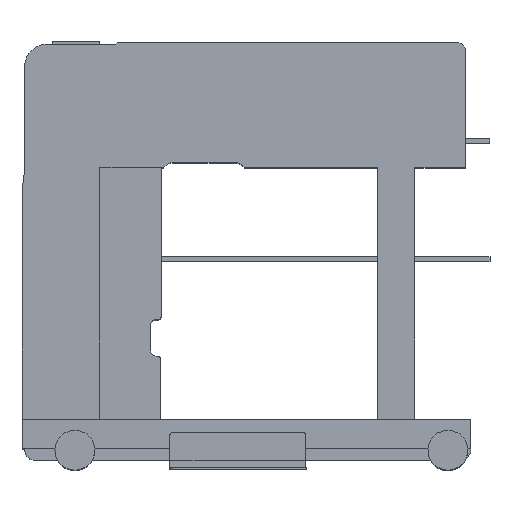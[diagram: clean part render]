
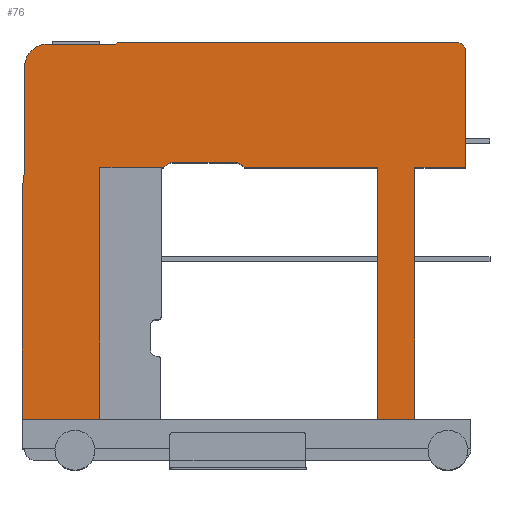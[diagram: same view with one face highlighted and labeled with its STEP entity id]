
A CAD part, top view. The second image highlights one B-rep face of the part: STEP entity #76.
In plain terms, the highlighted planar face has unit normal (0, 0, 1).
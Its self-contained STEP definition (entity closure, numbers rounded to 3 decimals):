
#76=ADVANCED_FACE('',(#2486),#2488,.T.);
#2486=FACE_BOUND('',#2487,.T.);
#2487=EDGE_LOOP('',(#4531,#4532,#4533,#4534,#4535,#4536,#4537,#4538,#4539,#4540,
#4541,#4542,#4543,#4544,#4545,#4546,#4547,#4548,#4549,#4550,#4551));
#2488=PLANE('',#2489);
#2489=AXIS2_PLACEMENT_3D('',#2490,#2491,#2492);
#2490=CARTESIAN_POINT('',(0.,0.,460.));
#2491=DIRECTION('',(0.,0.,1.));
#2492=DIRECTION('',(1.,0.,0.));
#4531=ORIENTED_EDGE('',*,*,#6002,.F.);
#4532=ORIENTED_EDGE('',*,*,#6003,.T.);
#4533=ORIENTED_EDGE('',*,*,#6004,.T.);
#4534=ORIENTED_EDGE('',*,*,#6005,.T.);
#4535=ORIENTED_EDGE('',*,*,#6006,.T.);
#4536=ORIENTED_EDGE('',*,*,#6007,.T.);
#4537=ORIENTED_EDGE('',*,*,#6008,.T.);
#4538=ORIENTED_EDGE('',*,*,#6009,.T.);
#4539=ORIENTED_EDGE('',*,*,#6010,.T.);
#4540=ORIENTED_EDGE('',*,*,#6011,.F.);
#4541=ORIENTED_EDGE('',*,*,#6012,.T.);
#4542=ORIENTED_EDGE('',*,*,#6013,.T.);
#4543=ORIENTED_EDGE('',*,*,#6014,.T.);
#4544=ORIENTED_EDGE('',*,*,#6015,.T.);
#4545=ORIENTED_EDGE('',*,*,#6016,.T.);
#4546=ORIENTED_EDGE('',*,*,#6017,.T.);
#4547=ORIENTED_EDGE('',*,*,#5976,.T.);
#4548=ORIENTED_EDGE('',*,*,#6018,.T.);
#4549=ORIENTED_EDGE('',*,*,#6019,.T.);
#4550=ORIENTED_EDGE('',*,*,#6020,.T.);
#4551=ORIENTED_EDGE('',*,*,#6021,.T.);
#5976=EDGE_CURVE('',#6676,#6674,#6677,.T.);
#6002=EDGE_CURVE('',#6726,#6727,#6728,.T.);
#6003=EDGE_CURVE('',#6726,#6729,#6730,.T.);
#6004=EDGE_CURVE('',#6729,#6731,#6732,.T.);
#6005=EDGE_CURVE('',#6731,#6733,#6734,.T.);
#6006=EDGE_CURVE('',#6733,#6735,#6736,.T.);
#6007=EDGE_CURVE('',#6735,#6737,#6738,.T.);
#6008=EDGE_CURVE('',#6737,#6739,#6740,.T.);
#6009=EDGE_CURVE('',#6739,#6741,#6742,.T.);
#6010=EDGE_CURVE('',#6741,#6743,#6744,.T.);
#6011=EDGE_CURVE('',#6745,#6743,#6746,.T.);
#6012=EDGE_CURVE('',#6745,#6747,#6748,.T.);
#6013=EDGE_CURVE('',#6747,#6749,#6750,.T.);
#6014=EDGE_CURVE('',#6749,#6751,#6752,.T.);
#6015=EDGE_CURVE('',#6751,#6753,#6754,.T.);
#6016=EDGE_CURVE('',#6753,#6755,#6756,.T.);
#6017=EDGE_CURVE('',#6755,#6676,#6757,.T.);
#6018=EDGE_CURVE('',#6674,#6758,#6759,.T.);
#6019=EDGE_CURVE('',#6758,#6760,#6761,.T.);
#6020=EDGE_CURVE('',#6760,#6762,#6763,.T.);
#6021=EDGE_CURVE('',#6762,#6727,#6764,.T.);
#6674=VERTEX_POINT('',#7849);
#6676=VERTEX_POINT('',#7853);
#6677=LINE('',#7854,#7855);
#6726=VERTEX_POINT('',#7959);
#6727=VERTEX_POINT('',#7960);
#6728=LINE('',#7961,#7962);
#6729=VERTEX_POINT('',#7964);
#6730=LINE('',#7965,#7966);
#6731=VERTEX_POINT('',#7968);
#6732=LINE('',#7969,#7970);
#6733=VERTEX_POINT('',#7972);
#6734=LINE('',#7973,#7974);
#6735=VERTEX_POINT('',#7976);
#6736=CIRCLE('',#7977,14.);
#6737=VERTEX_POINT('',#7981);
#6738=LINE('',#7982,#7983);
#6739=VERTEX_POINT('',#7985);
#6740=CIRCLE('',#7986,18.);
#6741=VERTEX_POINT('',#7990);
#6742=LINE('',#7991,#7992);
#6743=VERTEX_POINT('',#7994);
#6744=LINE('',#7995,#7996);
#6745=VERTEX_POINT('',#7998);
#6746=LINE('',#7999,#8000);
#6747=VERTEX_POINT('',#8002);
#6748=LINE('',#8003,#8004);
#6749=VERTEX_POINT('',#8006);
#6750=LINE('',#8007,#8008);
#6751=VERTEX_POINT('',#8010);
#6752=LINE('',#8011,#8012);
#6753=VERTEX_POINT('',#8014);
#6754=CIRCLE('',#8015,12.);
#6755=VERTEX_POINT('',#8019);
#6756=LINE('',#8020,#8021);
#6757=LINE('',#8023,#8024);
#6758=VERTEX_POINT('',#8026);
#6759=CIRCLE('',#8027,31.);
#6760=VERTEX_POINT('',#8031);
#6761=LINE('',#8032,#8033);
#6762=VERTEX_POINT('',#8035);
#6763=LINE('',#8036,#8037);
#6764=LINE('',#8039,#8040);
#7849=CARTESIAN_POINT('',(31.344,508.237,460.));
#7853=CARTESIAN_POINT('',(126.344,508.237,460.));
#7854=CARTESIAN_POINT('',(126.344,508.237,460.));
#7855=VECTOR('',#7856,1.);
#7856=DIRECTION('',(-1.,0.,0.));
#7959=CARTESIAN_POINT('',(105.344,0.,460.));
#7960=CARTESIAN_POINT('',(0.,0.,460.));
#7961=CARTESIAN_POINT('',(105.344,0.,460.));
#7962=VECTOR('',#7963,1.);
#7963=DIRECTION('',(-1.,0.,0.));
#7964=CARTESIAN_POINT('',(105.344,341.18,460.));
#7965=CARTESIAN_POINT('',(105.344,0.,460.));
#7966=VECTOR('',#7967,1.);
#7967=DIRECTION('',(0.,1.,0.));
#7968=CARTESIAN_POINT('',(189.13,340.767,460.));
#7969=CARTESIAN_POINT('',(105.344,341.18,460.));
#7970=VECTOR('',#7971,1.);
#7971=DIRECTION('',(1.,-0.005,0.));
#7972=CARTESIAN_POINT('',(192.13,340.767,460.));
#7973=CARTESIAN_POINT('',(189.13,340.767,460.));
#7974=VECTOR('',#7975,1.);
#7975=DIRECTION('',(1.,0.,0.));
#7976=CARTESIAN_POINT('',(205.612,347.85,460.));
#7977=AXIS2_PLACEMENT_3D('',#7978,#7979,#7980);
#7978=CARTESIAN_POINT('',(204.335,333.908,460.));
#7979=DIRECTION('',(0.,0.,-1.));
#7980=DIRECTION('',(-0.872,0.49,0.));
#7981=CARTESIAN_POINT('',(288.612,347.85,460.));
#7982=CARTESIAN_POINT('',(205.612,347.85,460.));
#7983=VECTOR('',#7984,1.);
#7984=DIRECTION('',(1.,0.,0.));
#7985=CARTESIAN_POINT('',(301.271,341.152,460.));
#7986=AXIS2_PLACEMENT_3D('',#7987,#7988,#7989);
#7987=CARTESIAN_POINT('',(287.218,329.904,460.));
#7988=DIRECTION('',(0.,0.,-1.));
#7989=DIRECTION('',(0.077,0.997,0.));
#7990=CARTESIAN_POINT('',(482.176,341.152,460.));
#7991=CARTESIAN_POINT('',(301.271,341.152,460.));
#7992=VECTOR('',#7993,1.);
#7993=DIRECTION('',(1.,0.,0.));
#7994=CARTESIAN_POINT('',(482.176,0.,460.));
#7995=CARTESIAN_POINT('',(482.176,341.152,460.));
#7996=VECTOR('',#7997,1.);
#7997=DIRECTION('',(0.,-1.,0.));
#7998=CARTESIAN_POINT('',(532.176,0.,460.));
#7999=CARTESIAN_POINT('',(532.176,0.,460.));
#8000=VECTOR('',#8001,1.);
#8001=DIRECTION('',(-1.,0.,0.));
#8002=CARTESIAN_POINT('',(532.176,341.152,460.));
#8003=CARTESIAN_POINT('',(532.176,0.,460.));
#8004=VECTOR('',#8005,1.);
#8005=DIRECTION('',(0.,1.,0.));
#8006=CARTESIAN_POINT('',(600.611,341.152,460.));
#8007=CARTESIAN_POINT('',(532.176,341.152,460.));
#8008=VECTOR('',#8009,1.);
#8009=DIRECTION('',(1.,0.,0.));
#8010=CARTESIAN_POINT('',(600.611,500.152,460.));
#8011=CARTESIAN_POINT('',(600.611,341.152,460.));
#8012=VECTOR('',#8013,1.);
#8013=DIRECTION('',(0.,1.,0.));
#8014=CARTESIAN_POINT('',(591.697,510.076,460.));
#8015=AXIS2_PLACEMENT_3D('',#8016,#8017,#8018);
#8016=CARTESIAN_POINT('',(588.733,498.448,460.));
#8017=DIRECTION('',(0.,-0.,1.));
#8018=DIRECTION('',(0.99,0.142,0.));
#8019=CARTESIAN_POINT('',(128.697,510.076,460.));
#8020=CARTESIAN_POINT('',(591.697,510.076,460.));
#8021=VECTOR('',#8022,1.);
#8022=DIRECTION('',(-1.,0.,0.));
#8023=CARTESIAN_POINT('',(128.697,510.076,460.));
#8024=VECTOR('',#8025,1.);
#8025=DIRECTION('',(-0.788,-0.616,0.));
#8026=CARTESIAN_POINT('',(3.404,476.145,460.));
#8027=AXIS2_PLACEMENT_3D('',#8028,#8029,#8030);
#8028=CARTESIAN_POINT('',(34.38,477.386,460.));
#8029=DIRECTION('',(0.,0.,1.));
#8030=DIRECTION('',(-0.098,0.995,0.));
#8031=CARTESIAN_POINT('',(3.404,335.145,460.));
#8032=CARTESIAN_POINT('',(3.404,476.145,460.));
#8033=VECTOR('',#8034,1.);
#8034=DIRECTION('',(0.,-1.,0.));
#8035=CARTESIAN_POINT('',(0.,311.387,460.));
#8036=CARTESIAN_POINT('',(3.404,335.145,460.));
#8037=VECTOR('',#8038,1.);
#8038=DIRECTION('',(-0.142,-0.99,0.));
#8039=CARTESIAN_POINT('',(0.,311.387,460.));
#8040=VECTOR('',#8041,1.);
#8041=DIRECTION('',(0.,-1.,0.));
